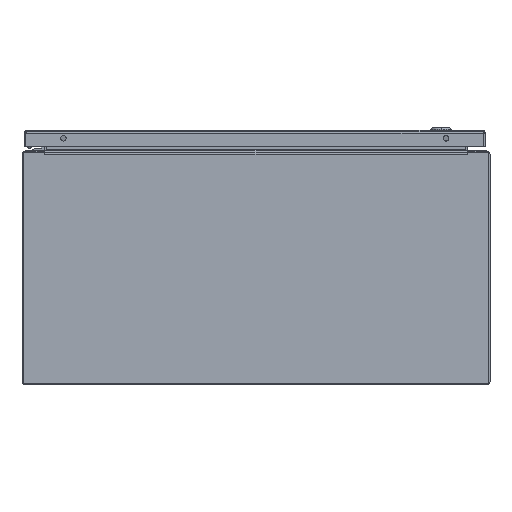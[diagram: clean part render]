
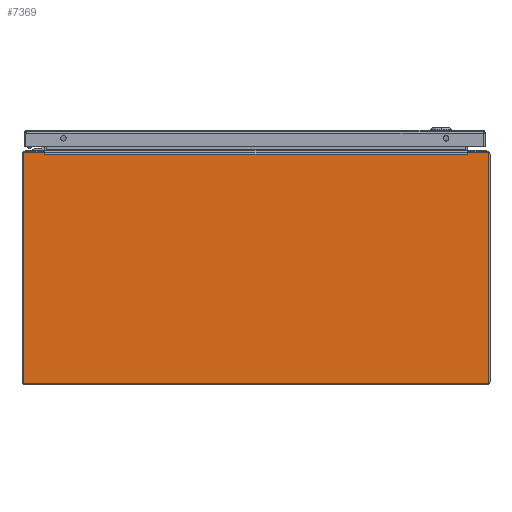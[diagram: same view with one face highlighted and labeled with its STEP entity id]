
A CAD part, front view. The second image highlights one B-rep face of the part: STEP entity #7369.
In plain terms, the highlighted planar face has unit normal (0, -1, 0).
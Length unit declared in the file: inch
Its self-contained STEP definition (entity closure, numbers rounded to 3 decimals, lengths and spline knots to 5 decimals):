
#6466=CARTESIAN_POINT('',(-11.857,0.,5.881));
#6467=DIRECTION('',(0.,-1.,0.));
#6468=DIRECTION('',(0.,0.,1.));
#6469=AXIS2_PLACEMENT_3D('',#6466,#6467,#6468);
#6471=DIRECTION('',(-1.,0.,0.));
#6472=VECTOR('',#6471,0.99242);
#6473=CARTESIAN_POINT('',(-10.86458,0.,5.961));
#6474=LINE('',#6473,#6472);
#6475=DIRECTION('',(0.174,0.,-0.985));
#6476=VECTOR('',#6475,0.12084);
#6477=CARTESIAN_POINT('',(-10.86458,0.,5.961));
#6478=LINE('',#6477,#6476);
#6479=DIRECTION('',(-1.,0.,0.));
#6480=VECTOR('',#6479,0.0156);
#6481=CARTESIAN_POINT('',(-10.828,0.,5.842));
#6482=LINE('',#6481,#6480);
#6483=DIRECTION('',(1.,0.,0.));
#6484=VECTOR('',#6483,0.0156);
#6485=CARTESIAN_POINT('',(10.828,0.,5.842));
#6486=LINE('',#6485,#6484);
#6487=DIRECTION('',(-0.174,0.,-0.985));
#6488=VECTOR('',#6487,0.12084);
#6489=CARTESIAN_POINT('',(10.86458,0.,5.961));
#6490=LINE('',#6489,#6488);
#6491=DIRECTION('',(-1.,0.,0.));
#6492=VECTOR('',#6491,0.99242);
#6493=CARTESIAN_POINT('',(11.857,0.,5.961));
#6494=LINE('',#6493,#6492);
#6495=CARTESIAN_POINT('',(11.857,0.,5.881));
#6496=DIRECTION('',(0.,-1.,0.));
#6497=DIRECTION('',(1.,0.,0.));
#6498=AXIS2_PLACEMENT_3D('',#6495,#6496,#6497);
#6500=DIRECTION('',(0.,0.,1.));
#6501=VECTOR('',#6500,11.738);
#6502=CARTESIAN_POINT('',(11.937,0.,-5.857));
#6503=LINE('',#6502,#6501);
#6504=CARTESIAN_POINT('',(11.857,0.,-5.857));
#6505=DIRECTION('',(0.,-1.,0.));
#6506=DIRECTION('',(0.,0.,-1.));
#6507=AXIS2_PLACEMENT_3D('',#6504,#6505,#6506);
#6509=DIRECTION('',(1.,0.,0.));
#6510=VECTOR('',#6509,23.714);
#6511=CARTESIAN_POINT('',(-11.857,0.,-5.937));
#6512=LINE('',#6511,#6510);
#6513=CARTESIAN_POINT('',(-11.857,0.,-5.857));
#6514=DIRECTION('',(0.,-1.,0.));
#6515=DIRECTION('',(-1.,0.,0.));
#6516=AXIS2_PLACEMENT_3D('',#6513,#6514,#6515);
#6518=DIRECTION('',(0.,0.,-1.));
#6519=VECTOR('',#6518,11.738);
#6520=CARTESIAN_POINT('',(-11.937,0.,5.881));
#6521=LINE('',#6520,#6519);
#6685=DIRECTION('',(1.,0.,0.));
#6686=VECTOR('',#6685,21.656);
#6687=CARTESIAN_POINT('',(-10.828,0.,5.842));
#6688=LINE('',#6687,#6686);
#7158=CARTESIAN_POINT('',(10.828,0.,5.842));
#7159=CARTESIAN_POINT('',(10.8436,0.,5.842));
#7160=VERTEX_POINT('',#7158);
#7161=VERTEX_POINT('',#7159);
#7162=CARTESIAN_POINT('',(10.86458,0.,5.961));
#7163=VERTEX_POINT('',#7162);
#7170=CARTESIAN_POINT('',(-10.828,0.,5.842));
#7171=CARTESIAN_POINT('',(-10.8436,0.,5.842));
#7172=VERTEX_POINT('',#7170);
#7173=VERTEX_POINT('',#7171);
#7174=CARTESIAN_POINT('',(-10.86458,0.,5.961));
#7175=VERTEX_POINT('',#7174);
#7234=CARTESIAN_POINT('',(-11.857,0.,5.961));
#7235=CARTESIAN_POINT('',(-11.937,0.,5.881));
#7236=VERTEX_POINT('',#7234);
#7237=VERTEX_POINT('',#7235);
#7242=CARTESIAN_POINT('',(-11.937,0.,-5.857));
#7243=CARTESIAN_POINT('',(-11.857,0.,-5.937));
#7244=VERTEX_POINT('',#7242);
#7245=VERTEX_POINT('',#7243);
#7250=CARTESIAN_POINT('',(11.857,0.,-5.937));
#7251=CARTESIAN_POINT('',(11.937,0.,-5.857));
#7252=VERTEX_POINT('',#7250);
#7253=VERTEX_POINT('',#7251);
#7258=CARTESIAN_POINT('',(11.937,0.,5.881));
#7259=CARTESIAN_POINT('',(11.857,0.,5.961));
#7260=VERTEX_POINT('',#7258);
#7261=VERTEX_POINT('',#7259);
#7334=CARTESIAN_POINT('',(0.,0.,0.));
#7335=DIRECTION('',(0.,-1.,0.));
#7336=DIRECTION('',(-1.,0.,0.));
#7337=AXIS2_PLACEMENT_3D('',#7334,#7335,#7336);
#7338=PLANE('',#7337);
#7340=ORIENTED_EDGE('',*,*,#7339,.F.);
#7342=ORIENTED_EDGE('',*,*,#7341,.F.);
#7344=ORIENTED_EDGE('',*,*,#7343,.T.);
#7346=ORIENTED_EDGE('',*,*,#7345,.F.);
#7348=ORIENTED_EDGE('',*,*,#7347,.T.);
#7350=ORIENTED_EDGE('',*,*,#7349,.T.);
#7352=ORIENTED_EDGE('',*,*,#7351,.F.);
#7354=ORIENTED_EDGE('',*,*,#7353,.F.);
#7356=ORIENTED_EDGE('',*,*,#7355,.F.);
#7358=ORIENTED_EDGE('',*,*,#7357,.F.);
#7360=ORIENTED_EDGE('',*,*,#7359,.F.);
#7362=ORIENTED_EDGE('',*,*,#7361,.F.);
#7364=ORIENTED_EDGE('',*,*,#7363,.F.);
#7366=ORIENTED_EDGE('',*,*,#7365,.F.);
#7367=EDGE_LOOP('',(#7340,#7342,#7344,#7346,#7348,#7350,#7352,#7354,#7356,#7358,
#7360,#7362,#7364,#7366));
#7368=FACE_OUTER_BOUND('',#7367,.F.);
#7369=ADVANCED_FACE('',(#7368),#7338,.T.);
#6470=CIRCLE('',#6469,0.08);
#6499=CIRCLE('',#6498,0.08);
#6508=CIRCLE('',#6507,0.08);
#6517=CIRCLE('',#6516,0.08);
#7339=EDGE_CURVE('',#7236,#7237,#6470,.T.);
#7341=EDGE_CURVE('',#7175,#7236,#6474,.T.);
#7343=EDGE_CURVE('',#7175,#7173,#6478,.T.);
#7345=EDGE_CURVE('',#7172,#7173,#6482,.T.);
#7347=EDGE_CURVE('',#7172,#7160,#6688,.T.);
#7349=EDGE_CURVE('',#7160,#7161,#6486,.T.);
#7351=EDGE_CURVE('',#7163,#7161,#6490,.T.);
#7353=EDGE_CURVE('',#7261,#7163,#6494,.T.);
#7355=EDGE_CURVE('',#7260,#7261,#6499,.T.);
#7357=EDGE_CURVE('',#7253,#7260,#6503,.T.);
#7359=EDGE_CURVE('',#7252,#7253,#6508,.T.);
#7361=EDGE_CURVE('',#7245,#7252,#6512,.T.);
#7363=EDGE_CURVE('',#7244,#7245,#6517,.T.);
#7365=EDGE_CURVE('',#7237,#7244,#6521,.T.);
